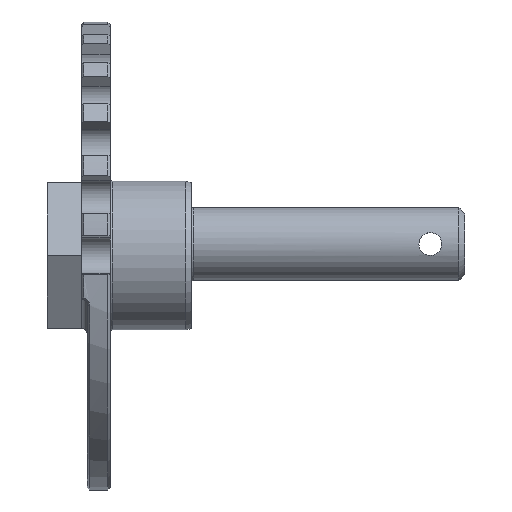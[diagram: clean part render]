
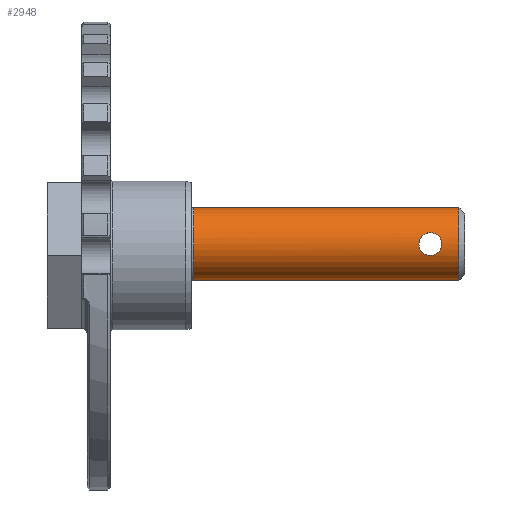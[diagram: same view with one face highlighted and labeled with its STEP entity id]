
A CAD part, top view. The second image highlights one B-rep face of the part: STEP entity #2948.
In plain terms, the highlighted cylindrical face has radius 3.175 mm (diameter 6.35 mm), a partial arc.
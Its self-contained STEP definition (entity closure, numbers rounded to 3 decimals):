
#2769=CARTESIAN_POINT('Vertex',(9.8,4.185,-1.109)) ;
#2771=CARTESIAN_POINT('Vertex',(9.8,-2.165,-1.109)) ;
#2805=CARTESIAN_POINT('Axis2P3D Location',(9.8,1.01,-1.109)) ;
#2822=CARTESIAN_POINT('Axis2P3D Location',(16.75,1.01,-1.109)) ;
#2827=CARTESIAN_POINT('Line Origine',(16.75,4.185,-1.109)) ;
#2831=CARTESIAN_POINT('Vertex',(33.,4.185,-1.109)) ;
#2838=CARTESIAN_POINT('Vertex',(33.,-2.165,-1.109)) ;
#2841=CARTESIAN_POINT('Line Origine',(16.75,-2.165,-1.109)) ;
#2895=CARTESIAN_POINT('Axis2P3D Location',(33.,1.01,-1.109)) ;
#2907=CARTESIAN_POINT('Control Point',(29.622,1.489,2.029)) ;
#2908=CARTESIAN_POINT('Control Point',(29.714,1.657,2.003)) ;
#2909=CARTESIAN_POINT('Control Point',(29.846,1.803,1.97)) ;
#2910=CARTESIAN_POINT('Control Point',(30.01,1.914,1.935)) ;
#2911=CARTESIAN_POINT('Control Point',(30.321,2.027,1.898)) ;
#2912=CARTESIAN_POINT('Control Point',(30.648,2.011,1.903)) ;
#2913=CARTESIAN_POINT('Control Point',(30.776,1.984,1.913)) ;
#2914=CARTESIAN_POINT('Control Point',(31.018,1.889,1.943)) ;
#2915=CARTESIAN_POINT('Control Point',(31.218,1.724,1.986)) ;
#2916=CARTESIAN_POINT('Control Point',(31.304,1.625,2.008)) ;
#2917=CARTESIAN_POINT('Control Point',(31.468,1.362,2.054)) ;
#2918=CARTESIAN_POINT('Control Point',(31.524,1.05,2.073)) ;
#2919=CARTESIAN_POINT('Control Point',(31.514,0.863,2.07)) ;
#2920=CARTESIAN_POINT('Control Point',(31.463,0.687,2.053)) ;
#2921=CARTESIAN_POINT('Control Point',(31.378,0.53,2.029)) ;
#2922=CARTESIAN_POINT('Vertex',(29.622,1.489,2.029)) ;
#2924=CARTESIAN_POINT('Vertex',(31.378,0.53,2.029)) ;
#2928=CARTESIAN_POINT('Control Point',(31.378,0.53,2.029)) ;
#2929=CARTESIAN_POINT('Control Point',(31.286,0.362,2.003)) ;
#2930=CARTESIAN_POINT('Control Point',(31.154,0.216,1.97)) ;
#2931=CARTESIAN_POINT('Control Point',(30.99,0.105,1.935)) ;
#2932=CARTESIAN_POINT('Control Point',(30.679,-0.008,1.898)) ;
#2933=CARTESIAN_POINT('Control Point',(30.352,0.008,1.903)) ;
#2934=CARTESIAN_POINT('Control Point',(30.224,0.035,1.913)) ;
#2935=CARTESIAN_POINT('Control Point',(29.982,0.13,1.943)) ;
#2936=CARTESIAN_POINT('Control Point',(29.782,0.295,1.986)) ;
#2937=CARTESIAN_POINT('Control Point',(29.696,0.394,2.008)) ;
#2938=CARTESIAN_POINT('Control Point',(29.532,0.657,2.054)) ;
#2939=CARTESIAN_POINT('Control Point',(29.476,0.969,2.073)) ;
#2940=CARTESIAN_POINT('Control Point',(29.486,1.156,2.07)) ;
#2941=CARTESIAN_POINT('Control Point',(29.537,1.332,2.053)) ;
#2942=CARTESIAN_POINT('Control Point',(29.622,1.489,2.029)) ;
#2806=DIRECTION('Axis2P3D Direction',(1.,-0.,0.)) ;
#2823=DIRECTION('Axis2P3D Direction',(1.,0.,0.)) ;
#2824=DIRECTION('Axis2P3D XDirection',(0.,1.,0.)) ;
#2828=DIRECTION('Vector Direction',(1.,0.,0.)) ;
#2842=DIRECTION('Vector Direction',(1.,0.,0.)) ;
#2896=DIRECTION('Axis2P3D Direction',(1.,0.,0.)) ;
#2807=AXIS2_PLACEMENT_3D('Circle Axis2P3D',#2805,#2806,$) ;
#2825=AXIS2_PLACEMENT_3D('Cylinder Axis2P3D',#2822,#2823,#2824) ;
#2897=AXIS2_PLACEMENT_3D('Circle Axis2P3D',#2895,#2896,$) ;
#2901=ORIENTED_EDGE('',*,*,#2845,.T.) ;
#2902=ORIENTED_EDGE('',*,*,#2899,.F.) ;
#2903=ORIENTED_EDGE('',*,*,#2833,.F.) ;
#2904=ORIENTED_EDGE('',*,*,#2809,.F.) ;
#2945=ORIENTED_EDGE('',*,*,#2926,.T.) ;
#2946=ORIENTED_EDGE('',*,*,#2943,.T.) ;
#2947=FACE_BOUND('',#2944,.T.) ;
#2829=VECTOR('Line Direction',#2828,1.) ;
#2843=VECTOR('Line Direction',#2842,1.) ;
#2948=ADVANCED_FACE('V5237758620000',(#2905,#2947),#2826,.T.) ;
#2906=B_SPLINE_CURVE_WITH_KNOTS('',5,(#2907,#2908,#2909,#2910,#2911,#2912,#2913,#2914,#2915,#2916,#2917,#2918,#2919,#2920,#2921),.UNSPECIFIED.,.F.,.U.,(6,3,3,3,6),(0.,1.369,2.281,3.199,4.472),.UNSPECIFIED.) ;
#2927=B_SPLINE_CURVE_WITH_KNOTS('',5,(#2928,#2929,#2930,#2931,#2932,#2933,#2934,#2935,#2936,#2937,#2938,#2939,#2940,#2941,#2942),.UNSPECIFIED.,.F.,.U.,(6,3,3,3,6),(0.,1.369,2.281,3.199,4.472),.UNSPECIFIED.) ;
#2808=CIRCLE('generated circle',#2807,3.175) ;
#2898=CIRCLE('generated circle',#2897,3.175) ;
#2826=CYLINDRICAL_SURFACE('generated cylinder',#2825,3.175) ;
#2809=EDGE_CURVE('',#2772,#2770,#2808,.F.) ;
#2833=EDGE_CURVE('',#2770,#2832,#2830,.T.) ;
#2845=EDGE_CURVE('',#2772,#2839,#2844,.T.) ;
#2899=EDGE_CURVE('',#2832,#2839,#2898,.T.) ;
#2926=EDGE_CURVE('',#2923,#2925,#2906,.T.) ;
#2943=EDGE_CURVE('',#2925,#2923,#2927,.T.) ;
#2900=EDGE_LOOP('',(#2901,#2902,#2903,#2904)) ;
#2944=EDGE_LOOP('',(#2945,#2946)) ;
#2905=FACE_OUTER_BOUND('',#2900,.T.) ;
#2830=LINE('Line',#2827,#2829) ;
#2844=LINE('Line',#2841,#2843) ;
#2770=VERTEX_POINT('',#2769) ;
#2772=VERTEX_POINT('',#2771) ;
#2832=VERTEX_POINT('',#2831) ;
#2839=VERTEX_POINT('',#2838) ;
#2923=VERTEX_POINT('',#2922) ;
#2925=VERTEX_POINT('',#2924) ;
